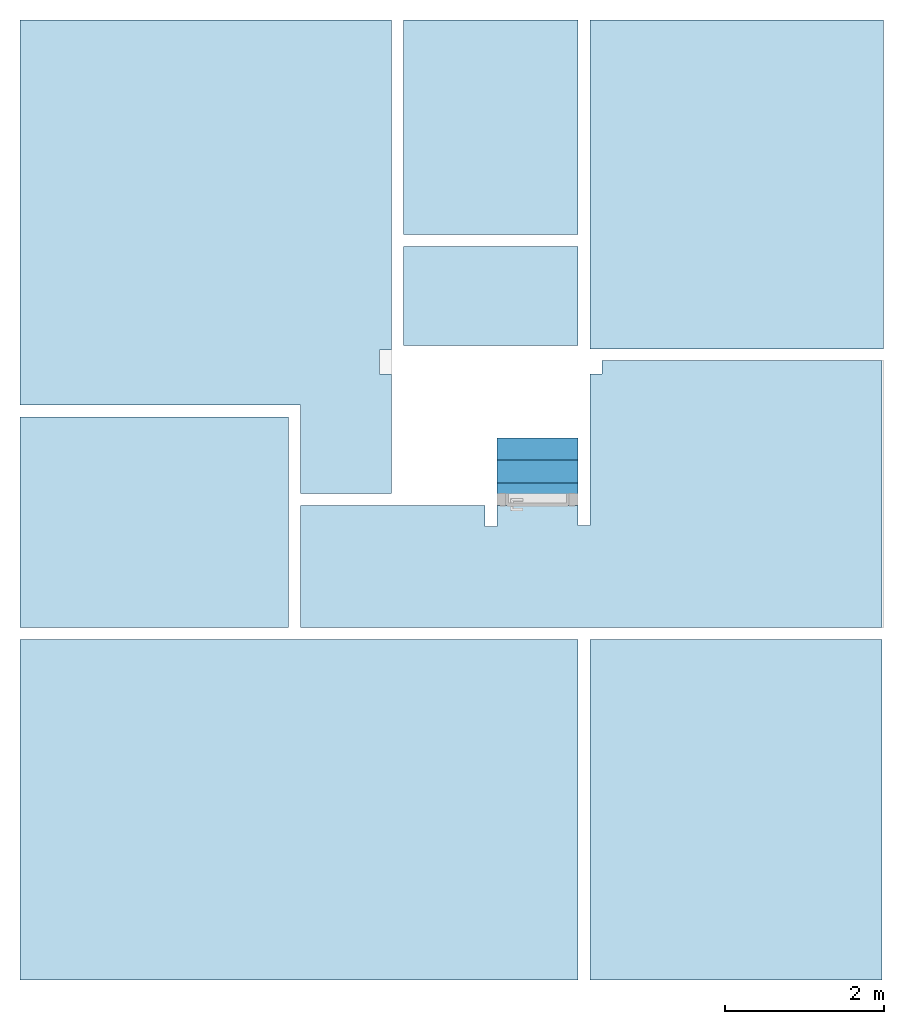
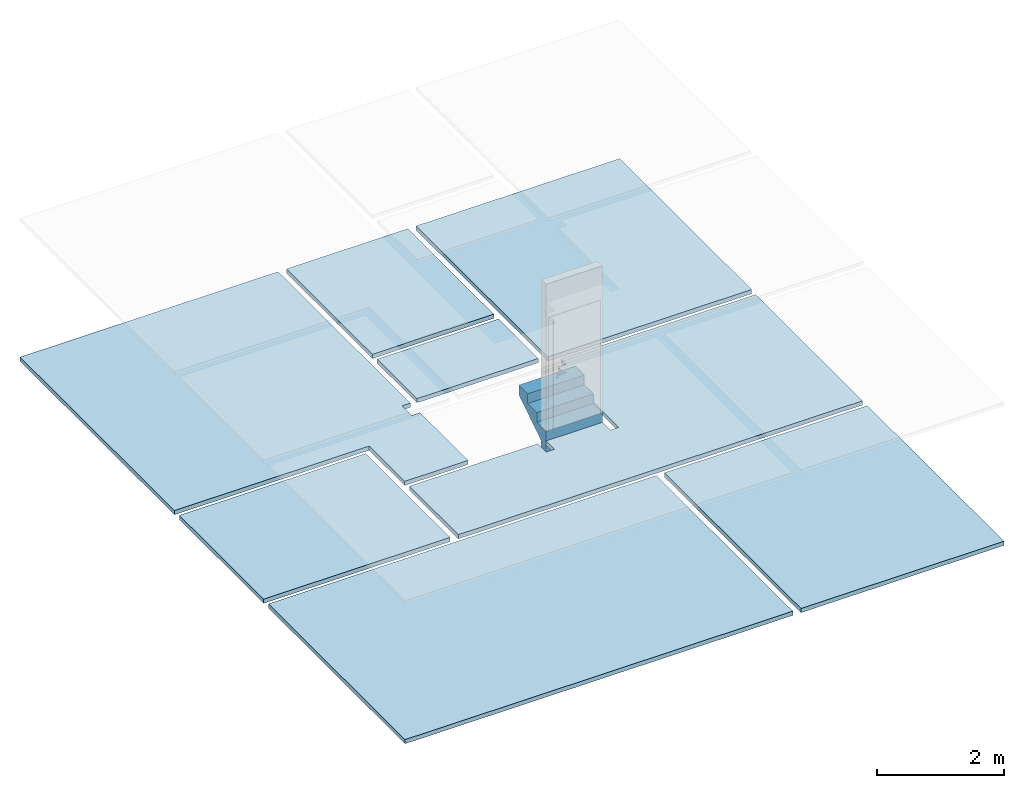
# One storey, part 1 of 3: 9 slabs.
"""IFC2X3 building model written with IfcOpenShell, lengths in metres."""

from ifc_helpers import new_model, entity, si_unit, converted_unit, derived_unit, direction, frame, frame_2d, origin, place, context, subcontext, project, spatial, polyline, rectangle, outline, extrude, material, layer, layer_set, layer_usage, element, save


model = new_model("IFC2X3")

# Units and contexts
model_context = context("Model", 3, precision=1e-05, world=origin(), true_north=direction((6.12303176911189e-17, 1.0)))
context_of_model = context(None, 3, precision=1e-05, world=origin(), true_north=direction((6.12303176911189e-17, 1.0)))
body_context = subcontext(model_context, "Body", "Model", "MODEL_VIEW")
ifc_project = project(units=[si_unit("LENGTHUNIT", "METRE"), si_unit("AREAUNIT", "SQUARE_METRE"), si_unit("VOLUMEUNIT", "CUBIC_METRE"), converted_unit("PLANEANGLEUNIT", "DEGREE", entity("IfcRatioMeasure", 0.0174532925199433), si_unit("PLANEANGLEUNIT", "RADIAN"), dimensions=[0, 0, 0, 0, 0, 0, 0]), si_unit("MASSUNIT", "GRAM", prefix="KILO"), si_unit("TIMEUNIT", "SECOND"), si_unit("FREQUENCYUNIT", "HERTZ"), si_unit("THERMODYNAMICTEMPERATUREUNIT", "DEGREE_CELSIUS"), derived_unit("THERMALTRANSMITTANCEUNIT", [(si_unit("MASSUNIT", "GRAM", prefix="KILO"), 1), (si_unit("THERMODYNAMICTEMPERATUREUNIT", "KELVIN"), -1), (si_unit("TIMEUNIT", "SECOND"), -3)]), derived_unit("VOLUMETRICFLOWRATEUNIT", [(si_unit("LENGTHUNIT", "METRE"), 3), (si_unit("TIMEUNIT", "SECOND"), -1)]), si_unit("ELECTRICCURRENTUNIT", "AMPERE"), si_unit("ELECTRICVOLTAGEUNIT", "VOLT"), si_unit("POWERUNIT", "WATT"), si_unit("FORCEUNIT", "NEWTON", prefix="KILO"), si_unit("ILLUMINANCEUNIT", "LUX"), si_unit("LUMINOUSFLUXUNIT", "LUMEN"), si_unit("LUMINOUSINTENSITYUNIT", "CANDELA"), si_unit("PRESSUREUNIT", "PASCAL")], contexts=[model_context, context_of_model])

# Site, building, storey
site_placement = place(None, origin())
site = spatial("IfcSite", under=ifc_project, at=site_placement, Name="Default", CompositionType="ELEMENT")
building_placement = place(site_placement, origin())
building = spatial("IfcBuilding", under=site, at=building_placement, CompositionType="ELEMENT")
storey_placement = place(building_placement, frame((0.0, 0.0, 3.53)))
storey = spatial("IfcBuildingStorey", under=building, at=storey_placement, Name="02.AR.PLANTA PRIMERA ACAB. SUELO", CompositionType="ELEMENT", Elevation=3.53)

# Slabs
ifc_material_1 = material(Name="Suelos por defecto")
slab_1_placement = place(storey_placement, origin())
element("IfcSlab", 1, at=slab_1_placement, inside=storey, material=ifc_material_1, Name="tramo escalera 3:tramo escalera 3", ObjectType="tramo escalera 3:tramo escalera 3", PredefinedType="FLOOR", context=body_context, shape_type="SweptSolid", body=[
    extrude(outline(polyline([(-0.000265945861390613, -0.375405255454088), (0.514735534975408, -0.375405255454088), (0.514735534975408, -0.214539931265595), (0.264735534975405, -0.214539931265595), (-0.182610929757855, 0.479587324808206), (-0.370265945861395, 0.479587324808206), (-0.370265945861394, 0.198706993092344), (-0.185265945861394, 0.198706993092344), (-0.185265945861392, -0.0883491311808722), (-0.000265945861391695, -0.0883491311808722), (-0.000265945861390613, -0.375405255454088)])), frame((10.39, 7.16453993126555, 0.184735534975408), z_axis=(1.0, 0.0, 0.0), x_axis=(0.0, 0.0, -1.0)), (0.0, 0.0, 1.0), 1.02499999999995),
])
ifc_material_2 = material(Name="Madera - Parquet")
ifc_layer_1 = layer(ifc_material_2, 0.015)
ifc_material_3 = material(Name="Hormigón")
ifc_layer_2 = layer(ifc_material_3, 0.065)
ifc_layer_set_1 = layer_set([ifc_layer_1, ifc_layer_2], Name="Suelo:Acabado de suelo parquet")
ifc_layer_usage_1 = layer_usage(ifc_layer_set_1, "AXIS3", "POSITIVE", 0.0)
slab_2_placement = place(storey_placement, frame((4.38499999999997, 0.81500000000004, -0.0800000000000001)))
element("IfcSlab", 2, at=slab_2_placement, inside=storey, material=ifc_layer_usage_1, Name="Suelo:Acabado de suelo parquet", ObjectType="Suelo:Acabado de suelo parquet", PredefinedType="FLOOR", context=body_context, shape_type="SweptSolid", body=[
    extrude(outline(polyline([(0.757500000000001, 6.04575886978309), (0.757500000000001, 1.88924113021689), (0.907499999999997, 1.88924113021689), (0.907499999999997, 1.58924113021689), (0.757499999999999, 1.58924113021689), (0.757500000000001, 0.0792411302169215), (1.90750000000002, 0.0792411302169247), (1.90750000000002, 1.1945229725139), (5.43750000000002, 1.19452297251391), (5.43750000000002, 6.04575886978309), (0.757500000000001, 6.04575886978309)])), frame((5.43750000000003, 6.04575886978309, 0.0800000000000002), z_axis=(0.0, 0.0, -1.0), x_axis=(-1.0, 0.0, 0.0)), (0.0, 0.0, 1.0), 0.0800000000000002),
])
slab_3_placement = place(storey_placement, frame((4.38499999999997, 0.81500000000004, -0.0800000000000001)))
element("IfcSlab", 3, at=slab_3_placement, inside=storey, material=ifc_layer_usage_1, Name="Suelo:Acabado de suelo parquet:2", ObjectType="Suelo:Acabado de suelo parquet", PredefinedType="FLOOR", context=body_context, shape_type="SweptSolid", body=[
    extrude(rectangle(XDim=1.24999999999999, YDim=2.19999999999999, at=frame_2d((-0.492499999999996, 2.5692411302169), x_axis=(0.0, -1.0))), frame((5.43750000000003, 6.04575886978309, 0.0800000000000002), z_axis=(0.0, 0.0, -1.0), x_axis=(-1.0, 0.0, 0.0)), (0.0, 0.0, 1.0), 0.0800000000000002),
])
slab_4_placement = place(storey_placement, frame((4.38499999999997, 0.81500000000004, -0.0800000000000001)))
element("IfcSlab", 4, at=slab_4_placement, inside=storey, material=ifc_layer_usage_1, Name="Suelo:Acabado de suelo parquet:3", ObjectType="Suelo:Acabado de suelo parquet", PredefinedType="FLOOR", context=body_context, shape_type="SweptSolid", body=[
    extrude(rectangle(XDim=4.14151773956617, YDim=3.69500000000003, at=frame_2d((-3.59000000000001, 3.97499999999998), x_axis=(0.0, -1.0))), frame((5.43750000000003, 6.04575886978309, 0.0800000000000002), z_axis=(0.0, 0.0, -1.0), x_axis=(-1.0, 0.0, 0.0)), (0.0, 0.0, 1.0), 0.0800000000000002),
])
slab_5_placement = place(storey_placement, frame((4.38499999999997, 0.81500000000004, -0.0800000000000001)))
element("IfcSlab", 5, at=slab_5_placement, inside=storey, material=ifc_layer_usage_1, Name="Suelo:Acabado de suelo parquet:4", ObjectType="Suelo:Acabado de suelo parquet", PredefinedType="FLOOR", context=body_context, shape_type="SweptSolid", body=[
    extrude(outline(polyline([(-5.42250000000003, 1.75424113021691), (-5.42250000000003, -1.60569778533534), (1.90749999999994, -1.60569778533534), (1.90749999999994, -0.0700742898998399), (-0.417500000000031, -0.0710086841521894), (-0.417500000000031, -0.335758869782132), (-0.567500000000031, -0.335758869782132), (-0.567500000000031, -0.0716253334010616), (-1.59249999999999, -0.0707588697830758), (-1.59249999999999, -0.320758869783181), (-1.74249999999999, -0.320758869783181), (-1.74249999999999, 1.58924113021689), (-1.89250000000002, 1.58924113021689), (-1.89250000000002, 1.75424113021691), (-5.42250000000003, 1.75424113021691)])), frame((5.43750000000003, 6.04575886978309, 0.0800000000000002), z_axis=(0.0, 0.0, -1.0), x_axis=(-1.0, 0.0, 0.0)), (0.0, 0.0, 1.0), 0.0800000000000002),
])
slab_6_placement = place(storey_placement, frame((4.38499999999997, 0.81500000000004, -0.0800000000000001)))
element("IfcSlab", 6, at=slab_6_placement, inside=storey, material=ifc_layer_usage_1, Name="Suelo:Acabado de suelo parquet:5", ObjectType="Suelo:Acabado de suelo parquet", PredefinedType="FLOOR", context=body_context, shape_type="SweptSolid", body=[
    extrude(rectangle(XDim=4.29006108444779, YDim=7.03000000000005, at=frame_2d((1.92250000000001, -3.90072832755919), x_axis=(0.0, -1.0))), frame((5.43750000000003, 6.04575886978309, 0.0800000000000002), z_axis=(0.0, 0.0, -1.0), x_axis=(-1.0, 0.0, 0.0)), (0.0, 0.0, 1.0), 0.0800000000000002),
])
slab_7_placement = place(storey_placement, frame((4.38499999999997, 0.81500000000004, -0.0800000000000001)))
element("IfcSlab", 7, at=slab_7_placement, inside=storey, material=ifc_layer_usage_1, Name="Suelo:Acabado de suelo parquet:6", ObjectType="Suelo:Acabado de suelo parquet", PredefinedType="FLOOR", context=body_context, shape_type="SweptSolid", body=[
    extrude(rectangle(XDim=3.68000000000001, YDim=4.29006108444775, at=frame_2d((-3.58250000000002, -3.90072832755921), x_axis=(1.0, 0.0))), frame((5.43750000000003, 6.04575886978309, 0.0800000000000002), z_axis=(0.0, 0.0, -1.0), x_axis=(-1.0, 0.0, 0.0)), (0.0, 0.0, 1.0), 0.0800000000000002),
])
ifc_material_4 = material(Name="Baldosa Cerámica")
ifc_layer_3 = layer(ifc_material_4, 0.015)
ifc_layer_4 = layer(ifc_material_3, 0.065)
ifc_layer_set_2 = layer_set([ifc_layer_3, ifc_layer_4], Name="Suelo:Acabado de suelo gres")
ifc_layer_usage_2 = layer_usage(ifc_layer_set_2, "AXIS3", "POSITIVE", 0.0)
slab_8_placement = place(storey_placement, frame((4.38499999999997, 5.25506108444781, -0.0800000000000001)))
element("IfcSlab", 8, at=slab_8_placement, inside=storey, material=ifc_layer_usage_2, Name="Suelo:Acabado de suelo gres", ObjectType="Suelo:Acabado de suelo gres", PredefinedType="FLOOR", context=body_context, shape_type="SweptSolid", body=[
    extrude(rectangle(XDim=2.64999999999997, YDim=3.38000000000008, at=frame_2d((1.82499999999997, -2.50072832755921), x_axis=(0.0, -1.0))), frame((3.51500000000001, 3.82572832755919, 0.0800000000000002), z_axis=(0.0, 0.0, -1.0), x_axis=(-1.0, 0.0, 0.0)), (0.0, 0.0, 1.0), 0.0800000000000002),
])
slab_9_placement = place(storey_placement, frame((4.38499999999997, 5.25506108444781, -0.0800000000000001)))
element("IfcSlab", 9, at=slab_9_placement, inside=storey, material=ifc_layer_usage_2, Name="Suelo:Acabado de suelo gres:2", ObjectType="Suelo:Acabado de suelo gres", PredefinedType="FLOOR", context=body_context, shape_type="SweptSolid", body=[
    extrude(rectangle(XDim=2.70151773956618, YDim=2.19999999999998, at=frame_2d((-2.41500000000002, 2.4749694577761), x_axis=(0.0, -1.0))), frame((3.51500000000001, 3.82572832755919, 0.0800000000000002), z_axis=(0.0, 0.0, -1.0), x_axis=(-1.0, 0.0, 0.0)), (0.0, 0.0, 1.0), 0.0800000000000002),
])

save(model, "model.ifc")
